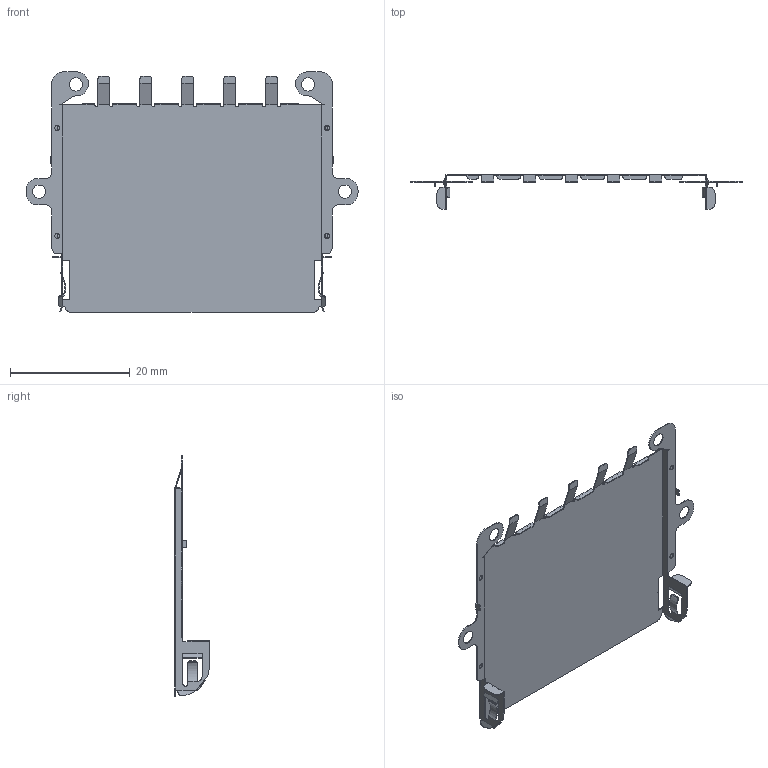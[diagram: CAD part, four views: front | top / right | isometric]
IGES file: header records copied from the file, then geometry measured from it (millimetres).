
Start section:  PTC IGES file: cf_shielding_top_prt.igs
Global section: file name: cf_shielding_top_prt.igs; native system: Pro/ENGINEER by Parametric Technology Corporation; preprocessor: 2000030; author: ECaille; organization: Unknown; date: 000803.091926; units: millimetre
Bounding box: 55.4 x 5.75 x 40.1 mm (x, y, z)
Surface area: 3758.8 mm2 (no closed solid volume)
Topology: 0 solids, 0 shells, 280 faces, 2678 edges, 3696 vertices
Faces by surface type: bspline 172, revolution 108
